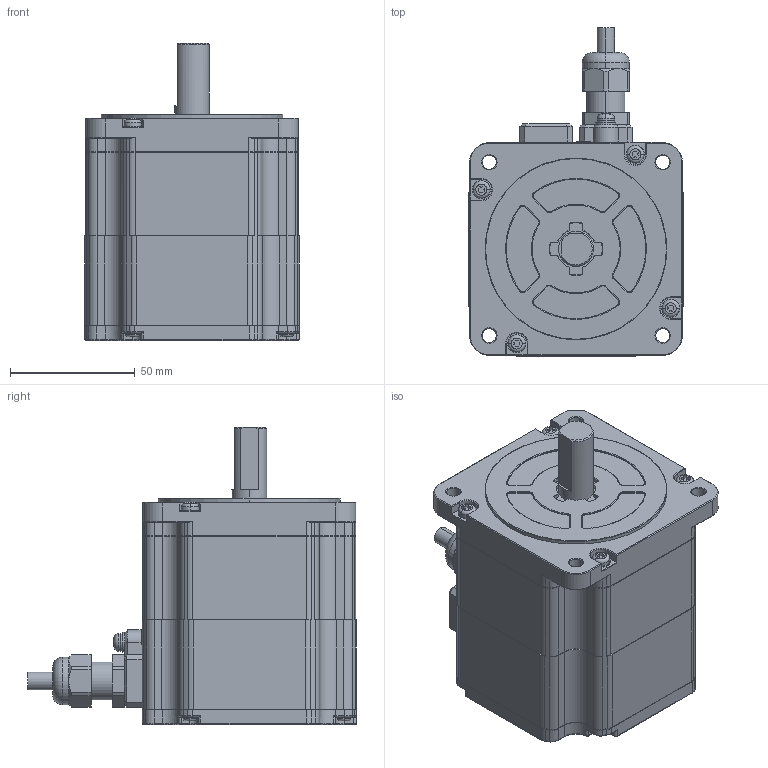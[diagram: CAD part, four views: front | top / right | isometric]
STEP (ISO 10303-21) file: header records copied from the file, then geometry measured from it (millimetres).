
FILE_DESCRIPTION (( 'STEP AP203' ), '1' );
FILE_NAME ('SP2861-5260.STEP', '2018-01-18T03:54:05', ( '' ), ( '' ), 'SwSTEP 2.0', 'SolidWorks 2017', '' );
FILE_SCHEMA (( 'CONFIG_CONTROL_DESIGN' ));
Length unit declared in the file: millimetre
Products named in the file (1): SP2861-5260
Bounding box: 86 x 132 x 119.3 mm (x, y, z)
Volume: 606581.1 mm3; surface area: 48868 mm2
Topology: 1 solids, 1 shells, 926 faces, 2343 edges, 1458 vertices
Faces by surface type: plane 400, cylinder 324, cone 102, torus 100
Entity records: 28050 total; most frequent: CARTESIAN_POINT 5144, DIRECTION 5035, ORIENTED_EDGE 4686, EDGE_CURVE 2343, AXIS2_PLACEMENT_3D 1873, VERTEX_POINT 1458, LINE 1289, VECTOR 1289
